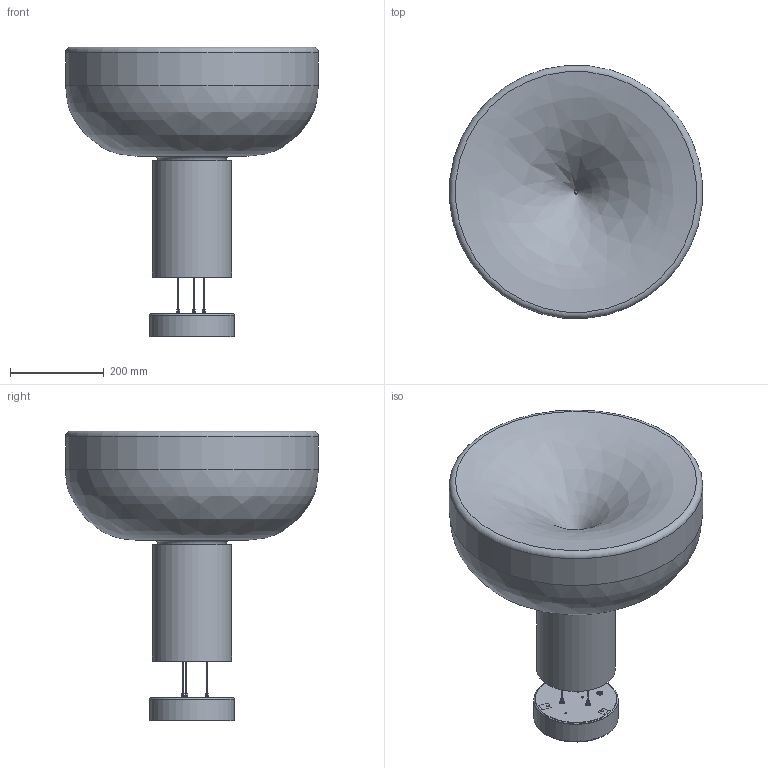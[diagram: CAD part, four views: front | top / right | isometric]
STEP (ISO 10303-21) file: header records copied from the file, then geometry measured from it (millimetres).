
FILE_DESCRIPTION(/* description */ ('AELLA SOSPENSIONE - S54'),/* implementation_level */ '2;1');
FILE_NAME(/* name */ '00500MC1LD1 - AELLA S54 COLLO ALTO - SEMPLIFICATA.stp',/* time_stamp */ '2023-05-03T13:07:37+02:00',/* author */ ('davide.turci'),/* organization */ (''),/* preprocessor_version */ 'ST-DEVELOPER v19.2',/* originating_system */ 'Autodesk Inventor 2023',/* authorisation */ '');
FILE_SCHEMA (('AUTOMOTIVE_DESIGN { 1 0 10303 214 3 1 1 }'));
Length unit declared in the file: millimetre
Products named in the file (28): 00500MC1LD1; 00500V004-A; 00500C001-B; 00500C202; DISSIPATORE MODULED 9920-B MECHATRONIX; VITE TC AUTOFIL M2,9X9,5 ZN UNI6954AB DIN7981C; K001; 00500C227; 00500C007; B002; B001; GRANO STEAB 5408-4-10-011 M7X1 NEUTRO; 00500C223; 00500C223_1; DISTANZIALE PRESSIONE M3 H8 FIL. PASS. TIPO SPECIALINSERT DP08 1 030 
12; DISTANZIALE PRESSIONE M4 H.6 FIL. PASS. TIPO SPECIALINSERT DP06 0 040.
12; ASM-ROS-01; PIA-ROS-01; COP-ROS-01; GRIPPER M10X1+CILINDRETTO SICUREZZA NICHEL; DADO M10X1 H3 M.00.52.11 ELETTROLAMPART; NIPPLO M10X1 STEAB 5016-3-7-011 NEUTRO; CAVO ACC. INOX 1X49 L 3500MM + FIN D.3X3; 00500C115; DISTANZIATORE STEAB 5229-10; VITE TESTA CILINDRICA STEAB 5074-05 M3X0,5 H6; K002; PASSACAVI STEAB 5284-0-0 POLIET.NEUTRO
Assembly tree (47 placements, depth 3):
  00500MC1LD1
    00500V004-A
    00500C001-B
    00500C202
      DISSIPATORE MODULED 9920-B MECHATRONIX
      VITE TC AUTOFIL M2,9X9,5 ZN UNI6954AB DIN7981C  x2
      K001
      00500C227
      B002
      B001
      GRANO STEAB 5408-4-10-011 M7X1 NEUTRO
    00500C007
    B002
    B001
    GRANO STEAB 5408-4-10-011 M7X1 NEUTRO
    00500C223
      00500C223_1
      DISTANZIALE PRESSIONE M3 H8 FIL. PASS. TIPO SPECIALINSERT DP08 1 030 
12  x2
      DISTANZIALE PRESSIONE M4 H.6 FIL. PASS. TIPO SPECIALINSERT DP06 0 040.
12  x3
    ASM-ROS-01
      PIA-ROS-01
      COP-ROS-01
      GRIPPER M10X1+CILINDRETTO SICUREZZA NICHEL  x3
      DADO M10X1 H3 M.00.52.11 ELETTROLAMPART  x3
      NIPPLO M10X1 STEAB 5016-3-7-011 NEUTRO
    CAVO ACC. INOX 1X49 L 3500MM + FIN D.3X3  x3
    00500C115  x3
    DISTANZIATORE STEAB 5229-10  x3
    VITE TESTA CILINDRICA STEAB 5074-05 M3X0,5 H6  x2
    K002
    PASSACAVI STEAB 5284-0-0 POLIET.NEUTRO  x3
Bounding box: 538.39 x 538.39 x 616.98 mm (x, y, z)
Volume: 5152410.5 mm3; surface area: 2000351.7 mm2
Topology: 47 solids, 47 shells, 2236 faces, 5598 edges, 3619 vertices
Faces by surface type: plane 1181, cylinder 863, cone 109, torus 71, sphere 8, bspline 4
Full cylindrical faces by diameter (mm): 1 x3, 1.5 x3, 2 x6, 2.459 x2, 2.9 x2, 3 x13, 3.3 x3, 3.5 x8, 4 x17, 4.5 x4, 5 x6, 5.38 x2, 5.4 x2, 5.5 x2, 5.917 x2, 6 x6, 6.2 x3, 6.5 x3, 7 x5, 7.11 x3, 7.2 x3, 8 x3, 9 x5, 10 x12, 10.5 x2, 12 x6, 13 x3, 106 x1, 132.5 x1, 145 x1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
Entity records: 56665 total; most frequent: CARTESIAN_POINT 10129, DIRECTION 9840, ORIENTED_EDGE 8974, EDGE_CURVE 4487, AXIS2_PLACEMENT_3D 3624, VERTEX_POINT 2898, LINE 2592, VECTOR 2592
